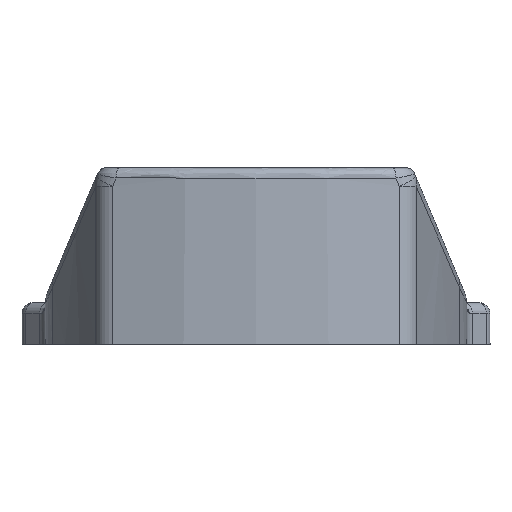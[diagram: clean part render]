
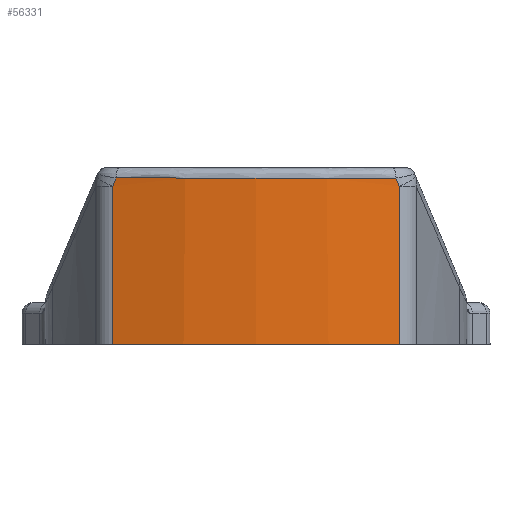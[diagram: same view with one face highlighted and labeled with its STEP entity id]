
A CAD part, front view. The second image highlights one B-rep face of the part: STEP entity #56331.
In plain terms, the highlighted cylindrical face has radius 92.5 mm (diameter 185 mm), a partial arc.
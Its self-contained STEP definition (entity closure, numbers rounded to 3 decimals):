
#7 = EDGE_CURVE ( 'NONE', #9057, #6325, #41040, .T. ) ;
#49517 = EDGE_CURVE ( 'NONE', #33843, #35826, #56368, .T. ) ;
#50187 = VERTEX_POINT ( 'NONE', #1692 ) ;
#33843 = VERTEX_POINT ( 'NONE', #7445 ) ;
#50252 = ORIENTED_EDGE ( 'NONE', *, *, #7, .F. ) ;
#17670 = FACE_OUTER_BOUND ( 'NONE', #55539, .T. ) ;
#17671 = CYLINDRICAL_SURFACE ( 'NONE', #17672, 92.5 ) ;
#17672 = AXIS2_PLACEMENT_3D ( 'NONE', #17673, #17674, #17675 ) ;
#17673 = CARTESIAN_POINT ( 'NONE',  ( 0., 5.5, 0. ) ) ;
#17674 = DIRECTION ( 'NONE',  ( 0., 0., 1. ) ) ;
#17675 = DIRECTION ( 'NONE',  ( 1., 0., 0. ) ) ;
#1692 = CARTESIAN_POINT ( 'NONE',  ( 27.579, -82.793, 0. ) ) ;
#50917 = EDGE_CURVE ( 'NONE', #7175, #50187, #3023, .T. ) ;
#1909 = CARTESIAN_POINT ( 'NONE',  ( 27.579, -82.793, 30.402 ) ) ;
#18781 = CIRCLE ( 'NONE', #18782, 92.5 ) ;
#18782 = AXIS2_PLACEMENT_3D ( 'NONE', #18783, #18784, #18785 ) ;
#18783 = CARTESIAN_POINT ( 'NONE',  ( 0., 5.5, 32. ) ) ;
#18784 = DIRECTION ( 'NONE',  ( 0., 0., 1. ) ) ;
#18785 = DIRECTION ( 'NONE',  ( 1., 0., 0. ) ) ;
#51966 = EDGE_CURVE ( 'NONE', #50187, #6325, #8254, .T. ) ;
#52156 = ORIENTED_EDGE ( 'NONE', *, *, #50917, .T. ) ;
#3023 = CIRCLE ( 'NONE', #3024, 92.5 ) ;
#3024 = AXIS2_PLACEMENT_3D ( 'NONE', #3025, #3026, #3027 ) ;
#3025 = CARTESIAN_POINT ( 'NONE',  ( 0., 5.5, 0. ) ) ;
#3026 = DIRECTION ( 'NONE',  ( 0., 0., 1. ) ) ;
#3027 = DIRECTION ( 'NONE',  ( 1., 0., 0. ) ) ;
#35826 = VERTEX_POINT ( 'NONE', #13294 ) ;
#3425 = CARTESIAN_POINT ( 'NONE',  ( -27.579, -82.793, 0. ) ) ;
#53060 = ORIENTED_EDGE ( 'NONE', *, *, #51966, .T. ) ;
#4252 = EDGE_CURVE ( 'NONE', #7175, #33843, #54177, .T. ) ;
#53859 = ORIENTED_EDGE ( 'NONE', *, *, #4252, .F. ) ;
#54177 = LINE ( 'NONE', #54178, #54179 ) ;
#54178 = CARTESIAN_POINT ( 'NONE',  ( -27.579, -82.793, 16. ) ) ;
#54179 = VECTOR ( 'NONE', #54180, 1000. ) ;
#54180 = DIRECTION ( 'NONE',  ( 0., 0., 1. ) ) ;
#6325 = VERTEX_POINT ( 'NONE', #1909 ) ;
#55539 = EDGE_LOOP ( 'NONE', ( #53859, #52156, #53060, #50252, #12965, #12666 ) ) ;
#7175 = VERTEX_POINT ( 'NONE', #3425 ) ;
#56331 = ADVANCED_FACE ( 'NONE', ( #17670 ), #17671, .T. ) ;
#56368 = B_SPLINE_CURVE_WITH_KNOTS ( 'NONE', 3,
 ( #56369, #56370, #56371, #56372 ),
 .UNSPECIFIED., .F., .F.,
 ( 4, 4 ),
 ( 0., 1. ),
 .UNSPECIFIED. ) ;
#56369 = CARTESIAN_POINT ( 'NONE',  ( -27.579, -82.793, 30.402 ) ) ;
#56370 = CARTESIAN_POINT ( 'NONE',  ( -27.342, -82.867, 30.935 ) ) ;
#56371 = CARTESIAN_POINT ( 'NONE',  ( -27.106, -82.94, 31.467 ) ) ;
#56372 = CARTESIAN_POINT ( 'NONE',  ( -26.869, -83.012, 32. ) ) ;
#7445 = CARTESIAN_POINT ( 'NONE',  ( -27.579, -82.793, 30.402 ) ) ;
#8254 = LINE ( 'NONE', #8255, #8256 ) ;
#8255 = CARTESIAN_POINT ( 'NONE',  ( 27.579, -82.793, 15.201 ) ) ;
#8256 = VECTOR ( 'NONE', #8257, 1000. ) ;
#8257 = DIRECTION ( 'NONE',  ( 0., 0., 1. ) ) ;
#41040 = B_SPLINE_CURVE_WITH_KNOTS ( 'NONE', 3,
 ( #41041, #41042, #41043, #41087 ),
 .UNSPECIFIED., .F., .F.,
 ( 4, 4 ),
 ( 0., 1. ),
 .UNSPECIFIED. ) ;
#41041 = CARTESIAN_POINT ( 'NONE',  ( 26.869, -83.012, 32. ) ) ;
#41042 = CARTESIAN_POINT ( 'NONE',  ( 27.106, -82.94, 31.467 ) ) ;
#41043 = CARTESIAN_POINT ( 'NONE',  ( 27.342, -82.867, 30.935 ) ) ;
#41087 = CARTESIAN_POINT ( 'NONE',  ( 27.579, -82.793, 30.402 ) ) ;
#8702 = CARTESIAN_POINT ( 'NONE',  ( 26.869, -83.012, 32. ) ) ;
#9057 = VERTEX_POINT ( 'NONE', #8702 ) ;
#12666 = ORIENTED_EDGE ( 'NONE', *, *, #49517, .F. ) ;
#12965 = ORIENTED_EDGE ( 'NONE', *, *, #13804, .F. ) ;
#13294 = CARTESIAN_POINT ( 'NONE',  ( -26.869, -83.012, 32. ) ) ;
#13804 = EDGE_CURVE ( 'NONE', #35826, #9057, #18781, .T. ) ;
